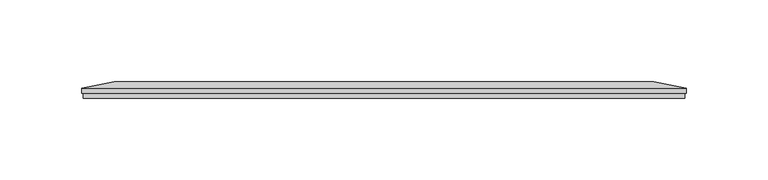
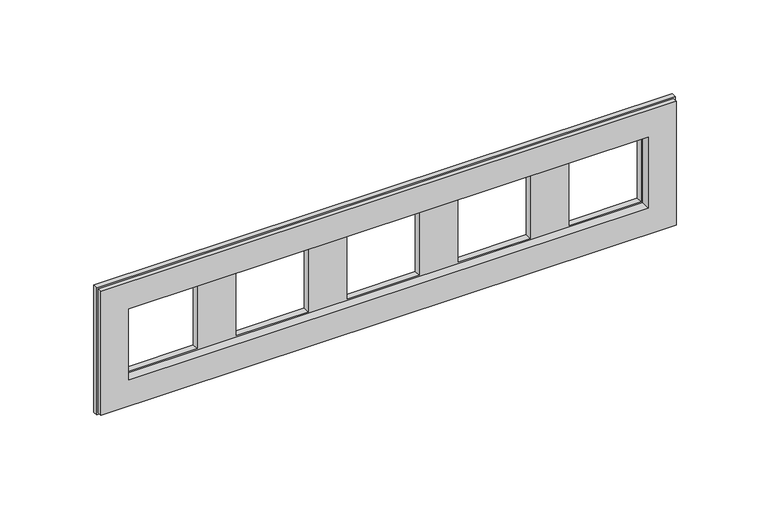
"""IFC4 building model written with IfcOpenShell, lengths in millimetres: proxy geometry, IEK_Skandy_Рамка : x5_SK-F05B."""

from ifc_helpers import new_model, si_unit, origin, place, context, project, spatial, faceted_brep, source, transform, mapped, element, save


def electrical_fixtures_2d9b2c9f(model_context):
    return source(origin(), model_context, "Body", "Brep", [
        faceted_brep([(-326.0, 0.0, 42.0), (-326.0, 0.0, -42.0), (42.0, 0.0, -42.0), (42.0, 0.0, 42.0), (-308.0, 0.0, 24.0), (24.0, 0.0, 24.0), (24.0, 0.0, -24.0), (-308.0, 0.0, -24.0), (-326.0, 3.0, 42.0), (-326.0, 3.0, -42.0), (42.0, 3.0, -42.0), (42.0, 3.0, 42.0), (-308.0, 6.0, 24.0), (24.0, 6.0, 24.0), (24.0, 6.0, -24.0), (-308.0, 6.0, -24.0), (-23.0, 10.0, 23.0), (-23.0, 10.0, -23.0), (-48.0, 10.0, -23.0), (-48.0, 10.0, 23.0), (-261.0, 10.0, -23.0), (-261.0, 10.0, 23.0), (-236.0, 10.0, 23.0), (-236.0, 10.0, -23.0), (-119.0, 10.0, -23.0), (-119.0, 10.0, 23.0), (-94.0, 10.0, 23.0), (-94.0, 10.0, -23.0), (-165.0, 10.0, 23.0), (-165.0, 10.0, -23.0), (-190.0, 10.0, -23.0), (-190.0, 10.0, 23.0), (-23.0, 6.0, 23.0), (23.0, 6.0, 23.0), (23.0, 6.0, -23.0), (-23.0, 6.0, -23.0), (-307.0, 6.0, 23.0), (-261.0, 6.0, 23.0), (-261.0, 6.0, -23.0), (-307.0, 6.0, -23.0), (-165.0, 6.0, 23.0), (-119.0, 6.0, 23.0), (-119.0, 6.0, -23.0), (-165.0, 6.0, -23.0), (-236.0, 6.0, 23.0), (-190.0, 6.0, 23.0), (-190.0, 6.0, -23.0), (-236.0, 6.0, -23.0), (-94.0, 6.0, 23.0), (-48.0, 6.0, 23.0), (-48.0, 6.0, -23.0), (-94.0, 6.0, -23.0), (43.0, 6.0, 43.0), (23.0, 10.0, 23.0), (-307.0, 10.0, 23.0), (-327.0, 6.0, 43.0), (43.0, 6.0, -43.0), (23.0, 10.0, -23.0), (-327.0, 6.0, -43.0), (-307.0, 10.0, -23.0), (-327.0, 3.0, 43.0), (-327.0, 3.0, -43.0), (43.0, 3.0, -43.0), (43.0, 3.0, 43.0)], [[[0, 1, 2, 3], [4, 5, 6, 7]], [[1, 0, 8, 9]], [[2, 1, 9, 10]], [[3, 2, 10, 11]], [[0, 3, 11, 8]], [[5, 4, 12, 13]], [[6, 5, 13, 14]], [[7, 6, 14, 15]], [[4, 7, 15, 12]], [[16, 17, 18, 19]], [[20, 21, 22, 23]], [[24, 25, 26, 27]], [[28, 29, 30, 31]], [[13, 12, 15, 14], [32, 33, 34, 35], [36, 37, 38, 39], [40, 41, 42, 43], [44, 45, 46, 47], [48, 49, 50, 51]], [[52, 53, 16, 19, 26, 25, 28, 31, 22, 21, 54, 55]], [[53, 52, 56, 57]], [[57, 56, 58, 59, 20, 23, 30, 29, 24, 27, 18, 17]], [[55, 54, 59, 58]], [[32, 16, 53, 33]], [[33, 53, 57, 34]], [[34, 57, 17, 35]], [[16, 32, 35, 17]], [[60, 61, 62, 63], [9, 8, 11, 10]], [[61, 60, 55, 58]], [[62, 61, 58, 56]], [[63, 62, 56, 52]], [[60, 63, 52, 55]], [[40, 28, 25, 41]], [[41, 25, 24, 42]], [[42, 24, 29, 43]], [[28, 40, 43, 29]], [[44, 22, 31, 45]], [[45, 31, 30, 46]], [[46, 30, 23, 47]], [[22, 44, 47, 23]], [[36, 54, 21, 37]], [[37, 21, 20, 38]], [[38, 20, 59, 39]], [[54, 36, 39, 59]], [[48, 26, 19, 49]], [[49, 19, 18, 50]], [[50, 18, 27, 51]], [[26, 48, 51, 27]]]),
    ])


if __name__ == "__main__":
    model = new_model("IFC4")
    model_context = context("Model", 3, world=origin())
    ifc_project = project(units=[si_unit("LENGTHUNIT", "METRE", prefix="MILLI")], contexts=[model_context])
    site = spatial("IfcSite", under=ifc_project)
    building = spatial("IfcBuilding", under=site)
    placement = place(None, origin())
    electrical_fixtures_shape = electrical_fixtures_2d9b2c9f(model_context)
    element("IfcBuildingElementProxy", 1, Name="IEK_Skandy_Рамка : x5_SK-F05B", ObjectType="IEK_Skandy_Рамка : x5_SK-F05B", at=placement, inside=building, context=model_context, shape_type="MappedRepresentation", body=[
        mapped(electrical_fixtures_shape, transform((0.0, 0.0, 0.0), x_axis=(1.0, 0.0, 0.0), y_axis=(0.0, 1.0, 0.0), z_axis=(0.0, 0.0, 1.0))),
    ])
    save(model, "model.ifc")
